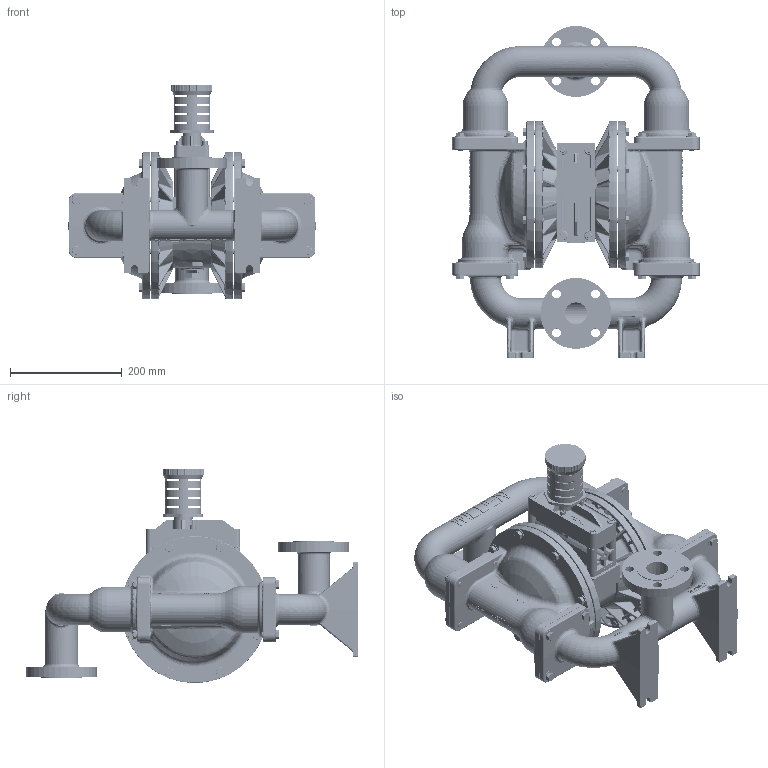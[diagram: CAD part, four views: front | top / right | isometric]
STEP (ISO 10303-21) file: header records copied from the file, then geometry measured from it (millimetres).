
FILE_DESCRIPTION((''),'2;1');
FILE_NAME('P430_ALUM_TOP_SW0002','2017-08-15T',('10013162'),(''),'PRO/ENGINEER BY PARAMETRIC TECHNOLOGY CORPORATION, 2015360','PRO/ENGINEER BY PARAMETRIC TECHNOLOGY CORPORATION, 2015360','');
FILE_SCHEMA(('CONFIG_CONTROL_DESIGN'));
Products named in the file (1): P430_ALUM_TOP_SW0002
Bounding box: 442.46 x 594.39 x 384.43 mm (x, y, z)
Volume: 7122627.8 mm3; surface area: 1751550.6 mm2
Topology: 1 solids, 1 shells, 11698 faces, 29642 edges, 18140 vertices
Faces by surface type: plane 5321, bspline 2267, cylinder 1803, torus 970, cone 864, sphere 409, extrusion 64
Entity records: 643620 total; most frequent: CARTESIAN_POINT 382931, ORIENTED_EDGE 58888, DIRECTION 48026, EDGE_CURVE 29444, VERTEX_POINT 18140, AXIS2_PLACEMENT_3D 17169, VECTOR 13688, LINE 13624
